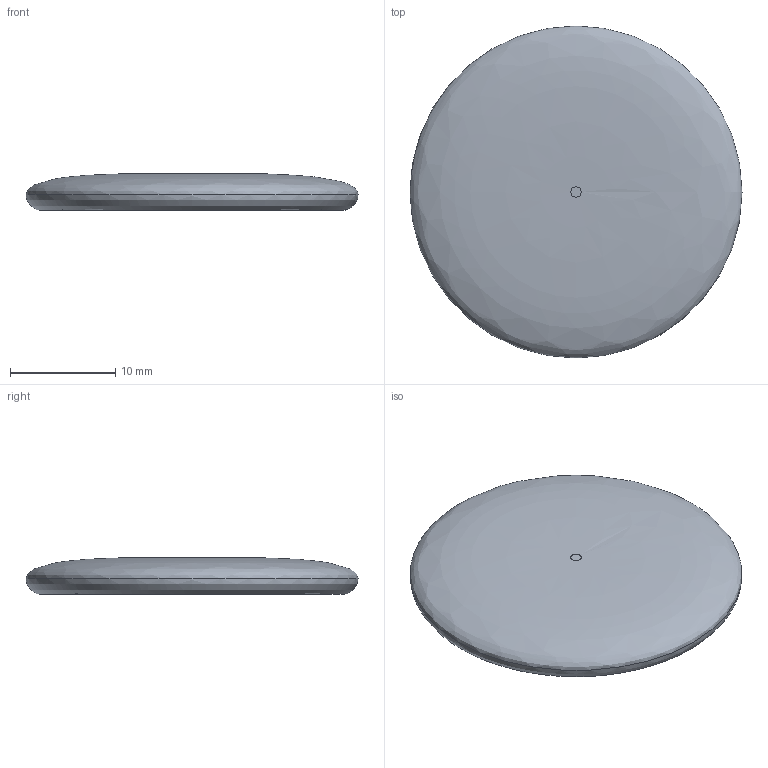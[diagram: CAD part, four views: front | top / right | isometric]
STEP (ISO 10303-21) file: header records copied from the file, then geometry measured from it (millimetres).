
FILE_DESCRIPTION(/* description */ ('STEP AP242 Edition 2','CAx-IF Rec.Pracs.---Representation and Presentation of Product Manufacturing Information (PMI)---4.0---2014-10-13','CAx-IF Rec.Pracs.---3D Tessellated Geometry---0.4---2014-09-14','2;1','CAx-IF Rec.Pracs.---User Defined Attributes---1.5---2016-08-15'),/* implementation_level */ '2;1');
FILE_NAME(/* name */ 'SquishyBallFidget - Part 17',/* time_stamp */ '2026-04-27T13:49:30Z',/* author */ (''),/* organization */ (''),/* preprocessor_version */ 'ST-DEVELOPER v20',/* originating_system */ 'ONSHAPE BY PTC INC, 1.214',/* authorisation */ ' ');
FILE_SCHEMA (('AP242_MANAGED_MODEL_BASED_3D_ENGINEERING_MIM_LF { 1 0 10303 442 3 1 4 }'));
Length unit declared in the file: metre
Products named in the file (1): Part 17
Bounding box: 31.5 x 31.5 x 3.51 mm (x, y, z)
Volume: 2065.8 mm3; surface area: 1800.1 mm2
Topology: 1 solids, 1 shells, 15 faces, 30 edges, 18 vertices
Faces by surface type: plane 13, bspline 2
Entity records: 979 total; most frequent: CARTESIAN_POINT 659, DIRECTION 57, ORIENTED_EDGE 56, EDGE_CURVE 28, LINE 25, VECTOR 25, VERTEX_POINT 18, EDGE_LOOP 18
